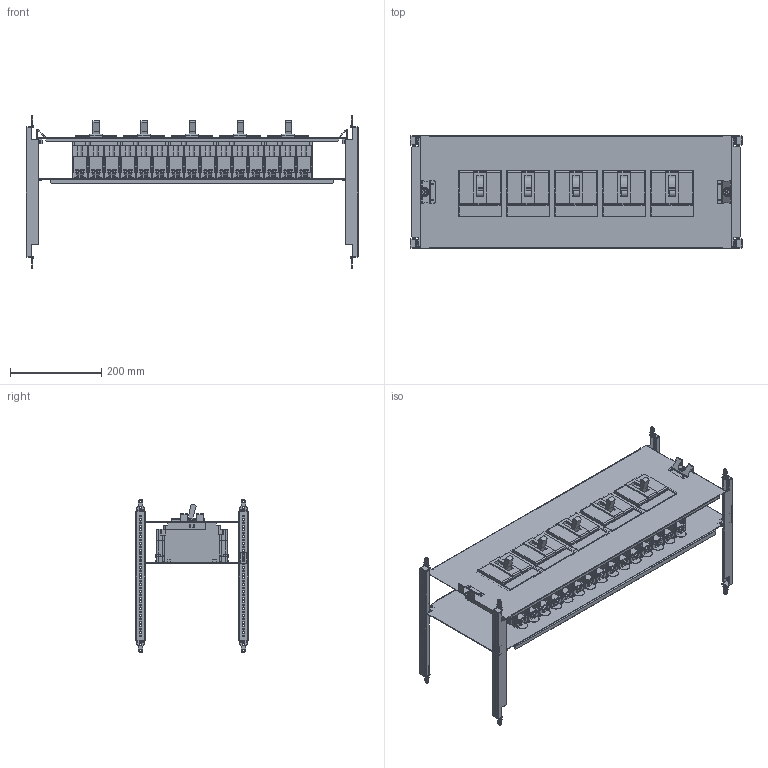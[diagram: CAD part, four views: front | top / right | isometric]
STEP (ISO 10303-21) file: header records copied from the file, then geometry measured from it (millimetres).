
FILE_DESCRIPTION(('CAx-IF Rec.Pracs.---Model Styling and Organization---1.2---2011-12-15','CAx-IF Rec.Pracs.---Geometric and Assembly Validation Properties---4.1---2014-06-16','CAx-IF Rec.Pracs.---PMI Polyline Presentation---2.0---2013-05-24'),'2;1');
FILE_NAME('R5PKIB7V82213 (F).stp','2021-07-29T03:21:28+03:00',(''),(''),'STEP Interface 4.4 by CT CoreTechnologie','3D_Evolution4.4 by CT CoreTechnologie','');
FILE_SCHEMA(('AUTOMOTIVE_DESIGN { 1 0 10303 214 1 1 1 1 }'));
Length unit declared in the file: millimetre
Products named in the file (1): R5PKIB7V82213 (F)
Bounding box: 726 x 248 x 335 mm (x, y, z)
Surface area: 1624631 mm2 (no closed solid volume)
Topology: 0 solids, 70 shells, 4840 faces, 14144 edges, 9507 vertices
Faces by surface type: plane 3843, cylinder 820, bspline 177
Entity records: 161065 total; most frequent: CARTESIAN_POINT 30564, ORIENTED_EDGE 28252, DIRECTION 25230, EDGE_CURVE 14126, VECTOR 12150, LINE 12150, VERTEX_POINT 9602, AXIS2_PLACEMENT_3D 6540
